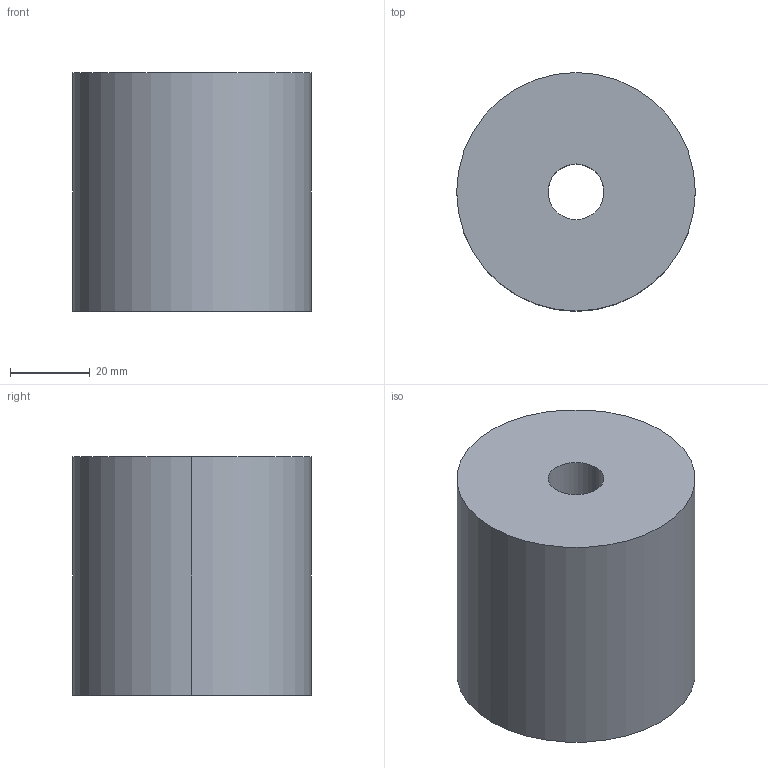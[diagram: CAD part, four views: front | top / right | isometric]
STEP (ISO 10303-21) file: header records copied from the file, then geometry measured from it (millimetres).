
FILE_DESCRIPTION(/* description */ (''),/* implementation_level */ '2;1');
FILE_NAME(/* name */ '3d_pa60-60_04917_r00.stp',/* time_stamp */ '2011-01-10T14:11:58+09:00',/* author */ ('MISUMI'),/* organization */ (''),/* preprocessor_version */ 'ST-DEVELOPER v11',/* originating_system */ 'UGS - NX 5.0',/* authorisation */ '');
FILE_SCHEMA (('CONFIG_CONTROL_DESIGN'));
Length unit declared in the file: millimetre
Products named in the file (1): 3d_pa60-60_04917_r00
Bounding box: 60 x 60 x 60 mm (x, y, z)
Volume: 160409.7 mm3; surface area: 19295.7 mm2
Topology: 1 solids, 1 shells, 6 faces, 12 edges, 8 vertices
Faces by surface type: cylinder 4, plane 2
Entity records: 254 total; most frequent: DIRECTION 34, CARTESIAN_POINT 27, ORIENTED_EDGE 24, AXIS2_PLACEMENT_3D 15, EDGE_CURVE 12, EDGE_LOOP 8, VERTEX_POINT 8, CIRCLE 8
